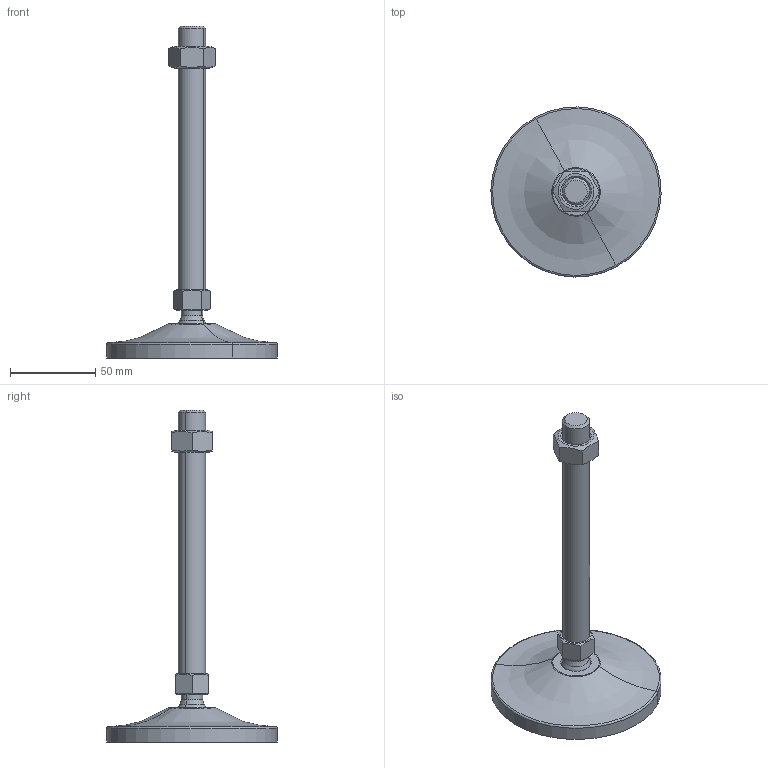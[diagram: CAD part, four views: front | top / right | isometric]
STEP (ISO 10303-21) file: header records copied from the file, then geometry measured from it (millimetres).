
FILE_DESCRIPTION(('CATIA V5 STEP Exchange'),'2;1');
FILE_NAME('C:\Users\ALI OZGUN\Desktop\alhan\saplama2\560101621.stp','2017-09-21T10:34:38+00:00',('none'),('none'),'CATIA Version 5 Release 21 GA (IN-10)','CATIA V5 STEP AP203','none');
FILE_SCHEMA(('CONFIG_CONTROL_DESIGN'));
Length unit declared in the file: millimetre
Products named in the file (1): 560101621
Bounding box: 99.97 x 99.97 x 195 mm (x, y, z)
Volume: 102889.5 mm3; surface area: 32643.2 mm2
Topology: 3 solids, 3 shells, 60 faces, 136 edges, 83 vertices
Faces by surface type: plane 20, cone 16, cylinder 14, torus 4, revolution 4, sphere 2
Entity records: 1857 total; most frequent: CARTESIAN_POINT 615, ORIENTED_EDGE 268, DIRECTION 185, EDGE_CURVE 134, AXIS2_PLACEMENT_3D 99, VERTEX_POINT 83, EDGE_LOOP 67, ADVANCED_FACE 60
